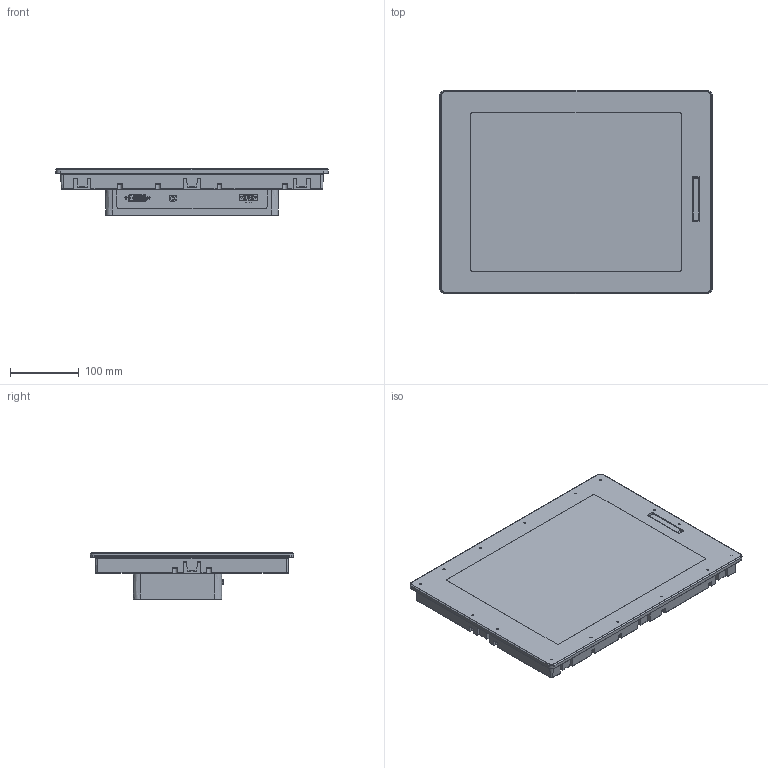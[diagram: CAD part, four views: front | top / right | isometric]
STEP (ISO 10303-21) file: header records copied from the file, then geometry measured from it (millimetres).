
FILE_DESCRIPTION((''),'2;1');
FILE_NAME('SIMPL_ASM_1_ASM_1_ASM_1_ASM','2021-06-02T09:43:15',('danae.lavaud'),(''),'CREO PARAMETRIC BY PTC INC, 2018260','CREO PARAMETRIC BY PTC INC, 2018260','');
FILE_SCHEMA(('CONFIG_CONTROL_DESIGN'));
Length unit declared in the file: inch
Products named in the file (14): PRT0001_1_1_1; SCREW_MSC_XREC_PAN_M3X36-116735; ASM0005_ASM_1_ASM_1_ASM_1_ASM_1_ASM; HRB1948901_1_1_1_1_1_1_1; PRT0002_1_1_1; HUA1256901_1_1_1_1_1_1_1; HUA1145401_1_1_1_1_1_1_1; ASM0005_ASM_1_ASM_1_ASM_1_ASM; DISPLAY_ADAPTER_20200611_1_2_10; DISPLAY_ADAPTER_20200611_1_2_12; DISPLAY_ADAPTER_20200611_1_2_11_ASM; BROCHE_ASM_1_ASM_1_ASM_1_ASM_1_ASM; PRT0001_1_1_1_1_1_1_7_1_1_1; SIMPL_ASM_1_ASM_1_ASM_1_ASM
Assembly tree (39 placements, depth 4):
  SIMPL_ASM_1_ASM_1_ASM_1_ASM
    PRT0001_1_1_1
    ASM0005_ASM_1_ASM_1_ASM_1_ASM_1_ASM
      SCREW_MSC_XREC_PAN_M3X36-116735  x6
    HRB1948901_1_1_1_1_1_1_1
    PRT0002_1_1_1
    ASM0005_ASM_1_ASM_1_ASM_1_ASM
      HUA1256901_1_1_1_1_1_1_1  x16
      HUA1145401_1_1_1_1_1_1_1  x7
    BROCHE_ASM_1_ASM_1_ASM_1_ASM_1_ASM
      DISPLAY_ADAPTER_20200611_1_2_11_ASM
        DISPLAY_ADAPTER_20200611_1_2_10
        DISPLAY_ADAPTER_20200611_1_2_12
    PRT0001_1_1_1_1_1_1_7_1_1_1
Bounding box: 397 x 296 x 67.5 mm (x, y, z)
Volume: 4399272.2 mm3; surface area: 411275.8 mm2
Topology: 34 solids, 61 shells, 4381 faces, 12782 edges, 8217 vertices
Faces by surface type: plane 2540, cylinder 1344, cone 264, torus 133, sphere 60, bspline 24, extrusion 16
Entity records: 117538 total; most frequent: CARTESIAN_POINT 25402, ORIENTED_EDGE 19918, DIRECTION 18307, EDGE_CURVE 9976, VECTOR 7487, LINE 7471, VERTEX_POINT 6514, AXIS2_PLACEMENT_3D 5410
